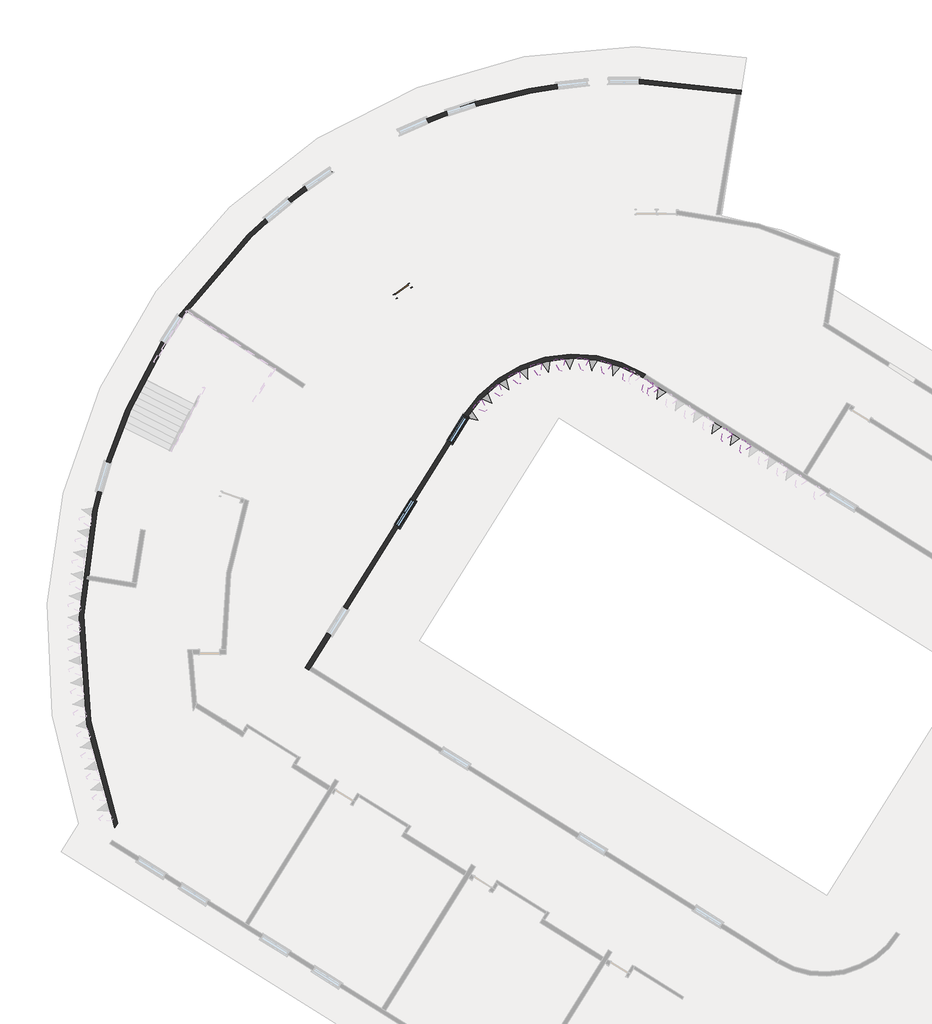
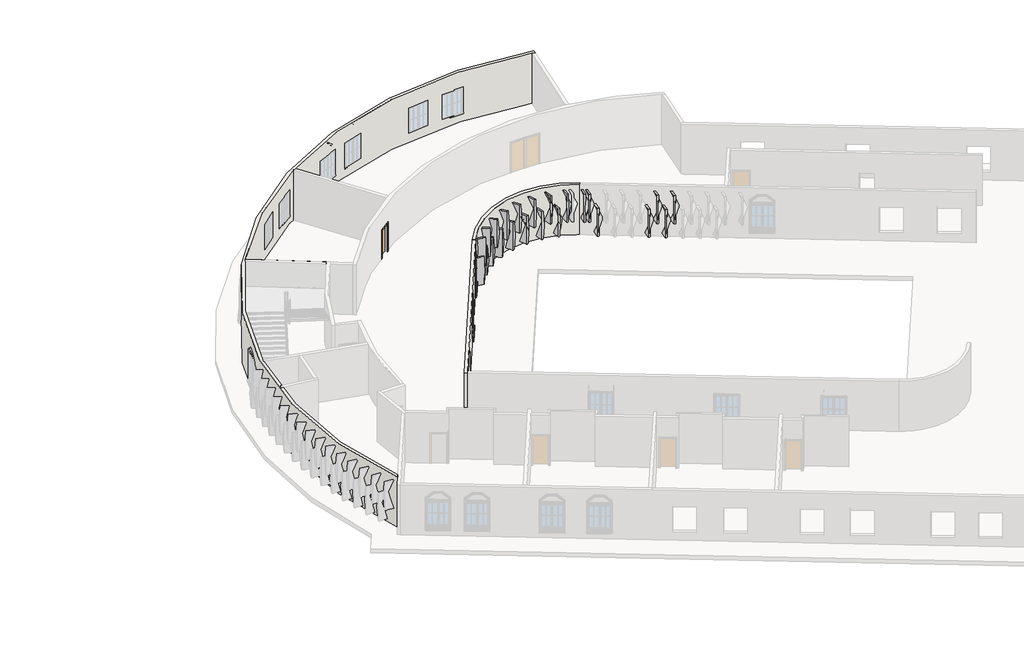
# One storey, part 4 of 7: 23 plates, 4 walls, 2 windows, 1 door.
"""IFC4 building model written with IfcOpenShell, lengths in millimetres."""

from ifc_helpers import new_model, si_unit, point, frame, frame_2d, origin, place, context, project, spatial, polyline, circle_curve, trimmed, segment, composite_curve, outline, extrude, faceted_brep, transform, mapped, element, save
from ifc_brep_helpers import plane_surface, cylinder_surface, revolved_surface, spline_curve, spline_surface, advanced_brep
from components import m_single_flush_0762_x_2032mm_0c256fab, plate_91021fb5, plate_53e44fb4, m_window_casement_double_1400_x_1800mm_877d247a, m_window_casement_double_1400_x_1800mm_eb8f2d9a

model = new_model("IFC4")

# Units and contexts
model_context = context("Model", 3, world=origin())
ifc_project = project(units=[si_unit("LENGTHUNIT", "METRE", prefix="MILLI")], contexts=[model_context])

# Site, building, storey
site = spatial("IfcSite", under=ifc_project)
building = spatial("IfcBuilding", under=site)
storey = spatial("IfcBuildingStorey", under=building, Name="\u200fطبقه اول", Elevation=3600.0)

# Door
placement = place(None, origin())
m_single_flush_0762_x_2032mm_shape = m_single_flush_0762_x_2032mm_0c256fab(model_context)
element("IfcDoor", 1, ObjectType="M_Single-Flush : 0762 x 2032mm", at=placement, inside=storey, context=model_context, shape_type="MappedRepresentation", body=[
    mapped(m_single_flush_0762_x_2032mm_shape, transform((17924.0859242, -18691.1581813, 3600.0), x_axis=(0.8144693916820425, 0.580206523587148, 0.0), y_axis=(-0.580206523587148, 0.8144693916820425, 0.0), z_axis=(0.0, 0.0, 1.0))),
])

# Plates
element("IfcPlate", 2, ObjectType="مدل پارامتریک کصینوس دار : مدل پارامتریک کصینوس دار", at=placement, inside=storey, context=model_context, shape_type="AdvancedBrep", body=[
    advanced_brep(
    [(21394.0327772, -24623.0954482, 3850.0), (21419.0725843, -24505.7369886, 3850.0), (21419.0725843, -24505.7369886, 5850.0), (21394.0327772, -24623.0954482, 5850.0), (20890.3572678, -24392.92936, 3850.0), (20890.3572678, -24392.92936, 5850.0), (20865.3174607, -24510.2878197, 3850.0), (20865.3174607, -24510.2878197, 5850.0)],
    [
        (0, 1),
        (1, 2, spline_curve(3, [(21419.0725843, -24505.7369886, 3850.0), (21419.072209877, -24505.736730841, 3851.333546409), (21419.071836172, -24505.736473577, 3852.666932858), (21419.266970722, -24505.87080726, 4200.371354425), (21495.1983814, -24558.1431793, 4525.185677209), (21495.1983814, -24558.1431793, 5174.814322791), (21419.266970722, -24505.87080726, 5499.628645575), (21419.071836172, -24505.736473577, 5847.333067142), (21419.072209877, -24505.736730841, 5848.666453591), (21419.0725843, -24505.7369886, 5850.0)], [4, 2, 2, 2, 4], [0.0, 0.0019169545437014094, 0.4999999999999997, 0.9980830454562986, 1.0])),
        (2, 3),
        (3, 0, spline_curve(3, [(21394.0327772, -24623.0954482, 5850.0), (21394.032774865, -24623.095446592, 5848.666453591), (21394.032772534, -24623.095444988, 5847.333067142), (21394.03398965, -24623.096282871, 5499.628645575), (21394.5076014, -24623.4223246, 5174.814322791), (21394.5076014, -24623.4223246, 4525.185677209), (21394.03398965, -24623.096282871, 4200.371354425), (21394.032772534, -24623.095444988, 3852.666932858), (21394.032774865, -24623.095446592, 3851.333546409), (21394.0327772, -24623.0954482, 3850.0)], [4, 2, 2, 2, 4], [0.0, 0.0019169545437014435, 0.5000000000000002, 0.9980830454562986, 1.0])),
        (1, 4),
        (4, 5, spline_curve(3, [(20890.3572678, -24392.92936, 3850.0), (20890.355739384, -24392.930778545, 3851.333546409), (20890.354213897, -24392.93219437, 3852.666932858), (20891.150764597, -24392.192904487, 4200.371354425), (21201.1072349, -24104.5179546, 4525.185677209), (21201.1072349, -24104.5179546, 5174.814322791), (20891.150764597, -24392.192904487, 5499.628645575), (20890.354213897, -24392.93219437, 5847.333067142), (20890.355739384, -24392.930778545, 5848.666453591), (20890.3572678, -24392.92936, 5850.0)], [4, 2, 2, 2, 4], [0.0, 0.0019169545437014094, 0.4999999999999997, 0.9980830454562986, 1.0])),
        (5, 2),
        (4, 6),
        (6, 7, spline_curve(3, [(20865.3174607, -24510.2878197, 3850.0), (20865.316304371, -24510.289494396, 3851.333546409), (20865.315150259, -24510.291165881, 3852.666932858), (20865.917783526, -24509.418380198, 4200.371354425), (21100.4164548, -24169.7970999, 4525.185677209), (21100.4164548, -24169.7970999, 5174.814322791), (20865.917783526, -24509.418380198, 5499.628645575), (20865.315150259, -24510.291165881, 5847.333067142), (20865.316304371, -24510.289494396, 5848.666453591), (20865.3174607, -24510.2878197, 5850.0)], [4, 2, 2, 2, 4], [0.0, 0.0019169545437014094, 0.4999999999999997, 0.9980830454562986, 1.0])),
        (7, 5),
        (3, 7),
        (6, 0),
    ],
    [
        spline_surface(3, 3, [[(21394.0327772, -24623.0954482, 3850.0), (21394.032774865, -24623.095446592, 3851.333546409), (21394.032772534, -24623.095444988, 3852.666932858), (21394.033989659, -24623.096282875, 4200.371354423), (21394.5076014, -24623.4223246, 4525.185677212), (21394.5076014, -24623.4223246, 5174.814322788), (21394.033989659, -24623.096282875, 5499.628645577), (21394.032772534, -24623.095444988, 5847.333067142), (21394.032774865, -24623.095446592, 5848.666453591), (21394.0327772, -24623.0954482, 5850.0)], [(21402.379379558, -24583.975961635, 3850.0), (21402.379253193, -24583.975874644, 3851.333546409), (21402.379127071, -24583.975787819, 3852.666932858), (21402.44498334, -24584.021124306, 4200.371354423), (21428.071194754, -24601.662609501, 4525.185677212), (21428.071194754, -24601.662609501, 5174.814322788), (21402.44498334, -24584.021124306, 5499.628645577), (21402.379127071, -24583.975787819, 5847.333067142), (21402.379253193, -24583.975874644, 5848.666453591), (21402.379379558, -24583.975961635, 5850.0)], [(21410.725981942, -24544.856475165, 3850.0), (21410.725731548, -24544.85630279, 3851.333546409), (21410.725481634, -24544.856130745, 3852.666932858), (21410.855977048, -24544.945965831, 4200.371354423), (21461.634788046, -24579.902894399, 4525.185677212), (21461.634788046, -24579.902894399, 5174.814322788), (21410.855977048, -24544.945965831, 5499.628645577), (21410.725481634, -24544.856130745, 5847.333067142), (21410.725731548, -24544.85630279, 5848.666453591), (21410.725981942, -24544.856475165, 5850.0)], [(21419.0725843, -24505.7369886, 3850.0), (21419.072209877, -24505.736730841, 3851.333546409), (21419.071836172, -24505.736473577, 3852.666932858), (21419.26697073, -24505.870807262, 4200.371354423), (21495.1983814, -24558.1431793, 4525.185677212), (21495.1983814, -24558.1431793, 5174.814322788), (21419.26697073, -24505.870807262, 5499.628645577), (21419.071836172, -24505.736473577, 5847.333067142), (21419.072209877, -24505.736730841, 5848.666453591), (21419.0725843, -24505.7369886, 5850.0)]], [4, 4], [4, 2, 2, 2, 4], [0.0, 1.0], [0.0, 0.0019169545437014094, 0.4999999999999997, 0.9980830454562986, 1.0]),
        spline_surface(3, 3, [[(21419.0725843, -24505.7369886, 3850.0), (21419.072209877, -24505.736730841, 3851.333546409), (21419.071836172, -24505.736473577, 3852.666932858), (21419.26697073, -24505.870807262, 4200.371354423), (21495.1983814, -24558.1431793, 4525.185677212), (21495.1983814, -24558.1431793, 5174.814322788), (21419.26697073, -24505.870807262, 5499.628645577), (21419.071836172, -24505.736473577, 5847.333067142), (21419.072209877, -24505.736730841, 5848.666453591), (21419.0725843, -24505.7369886, 5850.0)], [(21242.834145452, -24468.134445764, 3850.0), (21242.833386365, -24468.134746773, 3851.333546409), (21242.832628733, -24468.135047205, 3852.666932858), (21243.22823534, -24467.978173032, 4200.371354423), (21397.167999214, -24406.934771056, 4525.185677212), (21397.167999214, -24406.934771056, 5174.814322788), (21243.22823534, -24467.978173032, 5499.628645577), (21242.832628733, -24468.135047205, 5847.333067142), (21242.833386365, -24468.134746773, 5848.666453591), (21242.834145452, -24468.134445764, 5850.0)], [(21066.595706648, -24430.531902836, 3850.0), (21066.594562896, -24430.532762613, 3851.333546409), (21066.593421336, -24430.533620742, 3852.666932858), (21067.189499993, -24430.085538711, 4200.371354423), (21299.137617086, -24255.726362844, 4525.185677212), (21299.137617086, -24255.726362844, 5174.814322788), (21067.189499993, -24430.085538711, 5499.628645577), (21066.593421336, -24430.533620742, 5847.333067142), (21066.594562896, -24430.532762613, 5848.666453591), (21066.595706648, -24430.531902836, 5850.0)], [(20890.3572678, -24392.92936, 3850.0), (20890.355739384, -24392.930778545, 3851.333546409), (20890.354213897, -24392.93219437, 3852.666932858), (20891.150764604, -24392.192904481, 4200.371354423), (21201.1072349, -24104.5179546, 4525.185677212), (21201.1072349, -24104.5179546, 5174.814322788), (20891.150764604, -24392.192904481, 5499.628645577), (20890.354213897, -24392.93219437, 5847.333067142), (20890.355739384, -24392.930778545, 5848.666453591), (20890.3572678, -24392.92936, 5850.0)]], [4, 4], [4, 2, 2, 2, 4], [0.0, 1.0], [0.0, 0.0019169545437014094, 0.4999999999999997, 0.9980830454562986, 1.0]),
        spline_surface(3, 3, [[(20890.3572678, -24392.92936, 3850.0), (20890.355739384, -24392.930778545, 3851.333546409), (20890.354213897, -24392.93219437, 3852.666932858), (20891.150764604, -24392.192904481, 4200.371354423), (21201.1072349, -24104.5179546, 4525.185677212), (21201.1072349, -24104.5179546, 5174.814322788), (20891.150764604, -24392.192904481, 5499.628645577), (20890.354213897, -24392.93219437, 5847.333067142), (20890.355739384, -24392.930778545, 5848.666453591), (20890.3572678, -24392.92936, 5850.0)], [(20882.010665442, -24432.048846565, 3850.0), (20882.009261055, -24432.050350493, 3851.333546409), (20882.00785936, -24432.051851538, 3852.666932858), (20882.739770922, -24431.26806305, 4200.371354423), (21167.543641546, -24126.277669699, 4525.185677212), (21167.543641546, -24126.277669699, 5174.814322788), (20882.739770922, -24431.26806305, 5499.628645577), (20882.00785936, -24432.051851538, 5847.333067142), (20882.009261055, -24432.050350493, 5848.666453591), (20882.010665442, -24432.048846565, 5850.0)], [(20873.664063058, -24471.168333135, 3850.0), (20873.6627827, -24471.169922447, 3851.333546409), (20873.661504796, -24471.171508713, 3852.666932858), (20874.328777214, -24470.343221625, 4200.371354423), (21133.980048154, -24148.037384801, 4525.185677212), (21133.980048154, -24148.037384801, 5174.814322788), (20874.328777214, -24470.343221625, 5499.628645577), (20873.661504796, -24471.171508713, 5847.333067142), (20873.6627827, -24471.169922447, 5848.666453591), (20873.664063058, -24471.168333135, 5850.0)], [(20865.3174607, -24510.2878197, 3850.0), (20865.316304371, -24510.289494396, 3851.333546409), (20865.315150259, -24510.291165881, 3852.666932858), (20865.917783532, -24509.418380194, 4200.371354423), (21100.4164548, -24169.7970999, 4525.185677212), (21100.4164548, -24169.7970999, 5174.814322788), (20865.917783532, -24509.418380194, 5499.628645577), (20865.315150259, -24510.291165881, 5847.333067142), (20865.316304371, -24510.289494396, 5848.666453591), (20865.3174607, -24510.2878197, 5850.0)]], [4, 4], [4, 2, 2, 2, 4], [0.0, 1.0], [0.0, 0.0019169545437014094, 0.4999999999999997, 0.9980830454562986, 1.0]),
        spline_surface(3, 3, [[(20865.3174607, -24510.2878197, 3850.0), (20865.316304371, -24510.289494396, 3851.333546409), (20865.315150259, -24510.291165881, 3852.666932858), (20865.917783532, -24509.418380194, 4200.371354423), (21100.4164548, -24169.7970999, 4525.185677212), (21100.4164548, -24169.7970999, 5174.814322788), (20865.917783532, -24509.418380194, 5499.628645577), (20865.315150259, -24510.291165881, 5847.333067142), (20865.316304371, -24510.289494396, 5848.666453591), (20865.3174607, -24510.2878197, 5850.0)], [(21041.555899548, -24547.890362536, 3850.0), (21041.555127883, -24547.891478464, 3851.333546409), (21041.554357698, -24547.892592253, 3852.666932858), (21041.956518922, -24547.311014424, 4200.371354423), (21198.446836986, -24321.005508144, 4525.185677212), (21198.446836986, -24321.005508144, 5174.814322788), (21041.956518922, -24547.311014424, 5499.628645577), (21041.554357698, -24547.892592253, 5847.333067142), (21041.555127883, -24547.891478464, 5848.666453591), (21041.555899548, -24547.890362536, 5850.0)], [(21217.794338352, -24585.492905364, 3850.0), (21217.793951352, -24585.493462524, 3851.333546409), (21217.793565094, -24585.494018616, 3852.666932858), (21217.995254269, -24585.203648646, 4200.371354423), (21296.477219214, -24472.213916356, 4525.185677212), (21296.477219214, -24472.213916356, 5174.814322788), (21217.995254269, -24585.203648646, 5499.628645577), (21217.793565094, -24585.494018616, 5847.333067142), (21217.793951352, -24585.493462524, 5848.666453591), (21217.794338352, -24585.492905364, 5850.0)], [(21394.0327772, -24623.0954482, 3850.0), (21394.032774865, -24623.095446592, 3851.333546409), (21394.032772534, -24623.095444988, 3852.666932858), (21394.033989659, -24623.096282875, 4200.371354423), (21394.5076014, -24623.4223246, 4525.185677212), (21394.5076014, -24623.4223246, 5174.814322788), (21394.033989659, -24623.096282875, 5499.628645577), (21394.032772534, -24623.095444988, 5847.333067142), (21394.032774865, -24623.095446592, 5848.666453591), (21394.0327772, -24623.0954482, 5850.0)]], [4, 4], [4, 2, 2, 2, 4], [0.0, 1.0], [0.0, 0.0019169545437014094, 0.4999999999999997, 0.9980830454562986, 1.0]),
        plane_surface(frame((21142.1950225, -24508.0124041, 5850.0), z_axis=(0.0, 0.0, 1.0000000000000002), x_axis=(0.2086650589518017, 0.9779871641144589, 0.0))),
        plane_surface(frame((21142.1950225, -24508.0124041, 3850.0), z_axis=(0.0, 0.0, -1.0000000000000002), x_axis=(-0.9779871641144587, 0.2086650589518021, 0.0))),
    ],
    [
        (0, [[1, 2, 3, 4]]),
        (1, [[-2, 5, 6, 7]]),
        (2, [[-6, 8, 9, 10]]),
        (3, [[-4, 11, -9, 12]]),
        (4, [[-3, -7, -10, -11]]),
        (5, [[-1, -12, -8, -5]]),
    ],
),
])
plate_shape = plate_91021fb5(model_context)
element("IfcPlate", 3, ObjectType="مدل پارامتریک کصینوس دار : مدل پارامتریک کصینوس دار", at=placement, inside=storey, context=model_context, shape_type="MappedRepresentation", body=[
    mapped(plate_shape, transform((27473.6956186, -22338.0075931, 1850.0), x_axis=(0.0, 0.0, 1.0), y_axis=(0.848048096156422, -0.5299192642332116, 0.0), z_axis=(0.5299192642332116, 0.848048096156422, 0.0))),
])
element("IfcPlate", 4, ObjectType="مدل پارامتریک کصینوس دار : مدل پارامتریک کصینوس دار", at=placement, inside=storey, context=model_context, shape_type="MappedRepresentation", body=[
    mapped(plate_shape, transform((27897.7196667, -22602.9672252, 850.0), x_axis=(0.0, 0.0, 1.0), y_axis=(0.848048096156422, -0.5299192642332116, 0.0), z_axis=(0.5299192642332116, 0.848048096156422, 0.0))),
])
element("IfcPlate", 5, ObjectType="مدل پارامتریک کصینوس دار : مدل پارامتریک کصینوس دار", at=placement, inside=storey, context=model_context, shape_type="MappedRepresentation", body=[
    mapped(plate_shape, transform((30441.8639551, -24192.7250179, 850.0), x_axis=(0.0, 0.0, 1.0), y_axis=(0.848048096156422, -0.5299192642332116, 0.0), z_axis=(0.5299192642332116, 0.848048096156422, 0.0))),
])
element("IfcPlate", 6, ObjectType="مدل پارامتریک کصینوس دار : مدل پارامتریک کصینوس دار", at=placement, inside=storey, context=model_context, shape_type="MappedRepresentation", body=[
    mapped(plate_shape, transform((30865.8880032, -24457.68465, 1850.0), x_axis=(0.0, 0.0, 1.0), y_axis=(0.8480480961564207, -0.5299192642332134, 0.0), z_axis=(0.5299192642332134, 0.8480480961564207, 0.0))),
])
element("IfcPlate", 7, ObjectType="مدل پارامتریک کصینوس دار : مدل پارامتریک کصینوس دار", at=placement, inside=storey, context=model_context, shape_type="MappedRepresentation", body=[
    mapped(plate_shape, transform((31289.9120513, -24722.6442821, 850.0), x_axis=(0.0, 0.0, 1.0), y_axis=(0.8480480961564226, -0.5299192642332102, 0.0), z_axis=(0.5299192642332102, 0.8480480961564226, 0.0))),
])
element("IfcPlate", 8, ObjectType="مدل پارامتریک کصینوس دار : مدل پارامتریک کصینوس دار", at=placement, inside=storey, context=model_context, shape_type="MappedRepresentation", body=[
    mapped(plate_shape, transform((31713.9360994, -24987.6039143, 1850.0), x_axis=(0.0, 0.0, 1.0), y_axis=(0.8480480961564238, -0.5299192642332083, 0.0), z_axis=(0.5299192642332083, 0.8480480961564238, 0.0))),
])
plate_2_shape = plate_53e44fb4(model_context)
element("IfcPlate", 9, ObjectType="مدل پارامتریک کصینوس دار : مدل پارامتریک کصینوس دار", at=placement, inside=storey, context=model_context, shape_type="MappedRepresentation", body=[
    mapped(plate_2_shape, transform((20423.4526491, -25768.3939256, 1850.0), x_axis=(0.0, 0.0, 1.0), y_axis=(0.6407959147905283, 0.7677112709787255, 0.0), z_axis=(-0.7677112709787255, 0.6407959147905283, 0.0))),
])
element("IfcPlate", 10, ObjectType="مدل پارامتریک کصینوس دار : مدل پارامتریک کصینوس دار", at=placement, inside=storey, context=model_context, shape_type="MappedRepresentation", body=[
    mapped(plate_2_shape, transform((20624.0315557, -25275.4526207, 850.0), x_axis=(0.0, 0.0, 1.0), y_axis=(0.7090571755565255, 0.7051509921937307, 0.0), z_axis=(-0.7051509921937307, 0.7090571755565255, 0.0))),
])
element("IfcPlate", 11, ObjectType="مدل پارامتریک کصینوس دار : مدل پارامتریک کصینوس دار", at=placement, inside=storey, context=model_context, shape_type="MappedRepresentation", body=[
    mapped(plate_2_shape, transform((20869.344415, -24803.1766116, 1850.0), x_axis=(0.0, 0.0, 1.0), y_axis=(0.7712394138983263, 0.6365451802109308, 0.0), z_axis=(-0.6365451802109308, 0.7712394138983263, 0.0))),
])
element("IfcPlate", 12, ObjectType="مدل پارامتریک کصینوس دار : مدل پارامتریک کصینوس دار", at=placement, inside=storey, context=model_context, shape_type="MappedRepresentation", body=[
    mapped(plate_2_shape, transform((21157.2880646, -24355.6149036, 850.0), x_axis=(0.0, 0.0, 1.0), y_axis=(0.8268095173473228, 0.5624820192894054, 0.0), z_axis=(-0.5624820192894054, 0.8268095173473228, 0.0))),
])
element("IfcPlate", 13, ObjectType="مدل پارامتریک کصینوس دار : مدل پارامتریک کصینوس دار", at=placement, inside=storey, context=model_context, shape_type="MappedRepresentation", body=[
    mapped(plate_2_shape, transform((21485.3938517, -23936.6046171, 1850.0), x_axis=(0.0, 0.0, 1.0), y_axis=(0.8752910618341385, 0.48359648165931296, 0.0), z_axis=(-0.48359648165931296, 0.8752910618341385, 0.0))),
])
element("IfcPlate", 14, ObjectType="مدل پارامتریک کصینوس دار : مدل پارامتریک کصینوس دار", at=placement, inside=storey, context=model_context, shape_type="MappedRepresentation", body=[
    mapped(plate_2_shape, transform((21850.8487982, -23549.7380899, 850.0), x_axis=(0.0, 0.0, 1.0), y_axis=(0.9162683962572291, 0.40056488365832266, 0.0), z_axis=(-0.40056488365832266, 0.9162683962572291, 0.0))),
])
element("IfcPlate", 15, ObjectType="مدل پارامتریک کصینوس دار : مدل پارامتریک کصینوس دار", at=placement, inside=storey, context=model_context, shape_type="MappedRepresentation", body=[
    mapped(plate_2_shape, transform((22250.5197169, -23198.332079, 1850.0), x_axis=(0.0, 0.0, 1.0), y_axis=(0.9493902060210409, 0.31409908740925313, 0.0), z_axis=(-0.31409908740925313, 0.9493902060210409, 0.0))),
])
element("IfcPlate", 16, ObjectType="مدل پارامتریک کصینوس دار : مدل پارامتریک کصینوس دار", at=placement, inside=storey, context=model_context, shape_type="MappedRepresentation", body=[
    mapped(plate_2_shape, transform((22680.9800739, -22885.3993244, 850.0), x_axis=(0.0, 0.0, 1.0), y_axis=(0.9743725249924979, 0.2249403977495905, 0.0), z_axis=(-0.2249403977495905, 0.9743725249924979, 0.0))),
])
element("IfcPlate", 17, ObjectType="مدل پارامتریک کصینوس دار : مدل پارامتریک کصینوس دار", at=placement, inside=storey, context=model_context, shape_type="MappedRepresentation", body=[
    mapped(plate_2_shape, transform((23138.5393653, -22613.6227202, 1850.0), x_axis=(0.0, 0.0, 1.0), y_axis=(0.9910011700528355, 0.13385320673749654, 0.0), z_axis=(-0.13385320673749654, 0.9910011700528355, 0.0))),
])
element("IfcPlate", 18, ObjectType="مدل پارامتریک کصینوس دار : مدل پارامتریک کصینوس دار", at=placement, inside=storey, context=model_context, shape_type="MappedRepresentation", body=[
    mapped(plate_2_shape, transform((23619.2747578, -22385.3323128, 850.0), x_axis=(0.0, 0.0, 1.0), y_axis=(0.9991335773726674, 0.04161844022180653, 0.0), z_axis=(-0.04161844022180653, 0.9991335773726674, 0.0))),
])
element("IfcPlate", 19, ObjectType="مدل پارامتریک کصینوس دار : مدل پارامتریک کصینوس دار", at=placement, inside=storey, context=model_context, shape_type="MappedRepresentation", body=[
    mapped(plate_2_shape, transform((24119.0647203, -22202.4853243, 1850.0), x_axis=(0.0, 0.0, 1.0), y_axis=(0.9987000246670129, -0.05097313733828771, 0.0), z_axis=(0.05097313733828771, 0.9987000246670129, 0.0))),
])
element("IfcPlate", 20, ObjectType="مدل پارامتریک کصینوس دار : مدل پارامتریک کصینوس دار", at=placement, inside=storey, context=model_context, shape_type="MappedRepresentation", body=[
    mapped(plate_2_shape, transform((24633.6243593, -22066.649373, 850.0), x_axis=(0.0, 0.0, 1.0), y_axis=(0.9897042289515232, -0.14312770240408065, 0.0), z_axis=(0.14312770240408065, 0.9897042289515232, 0.0))),
])
element("IfcPlate", 21, ObjectType="مدل پارامتریک کصینوس دار : مدل پارامتریک کصینوس دار", at=placement, inside=storey, context=model_context, shape_type="MappedRepresentation", body=[
    mapped(plate_2_shape, transform((25158.5421554, -21978.9890333, 1850.0), x_axis=(0.0, 0.0, 1.0), y_axis=(0.9722233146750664, -0.2340551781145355, 0.0), z_axis=(0.2340551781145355, 0.9722233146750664, 0.0))),
])
element("IfcPlate", 22, ObjectType="مدل پارامتریک کصینوس دار : مدل پارامتریک کصینوس دار", at=placement, inside=storey, context=model_context, shape_type="MappedRepresentation", body=[
    mapped(plate_2_shape, transform((25689.3177844, -21940.2558512, 850.0), x_axis=(0.0, 0.0, 1.0), y_axis=(0.9464071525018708, -0.32297600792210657, 0.0), z_axis=(0.32297600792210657, 0.9464071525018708, 0.0))),
])
element("IfcPlate", 23, ObjectType="مدل پارامتریک کصینوس دار : مدل پارامتریک کصینوس دار", at=placement, inside=storey, context=model_context, shape_type="MappedRepresentation", body=[
    mapped(plate_2_shape, transform((26221.4007009, -21950.7819014, 1850.0), x_axis=(0.0, 0.0, 1.0), y_axis=(0.9124770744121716, -0.40912783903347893, 0.0), z_axis=(0.40912783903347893, 0.9124770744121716, 0.0))),
])
element("IfcPlate", 24, ObjectType="مدل پارامتریک کصینوس دار : مدل پارامتریک کصینوس دار", at=placement, inside=storey, context=model_context, shape_type="MappedRepresentation", body=[
    mapped(plate_2_shape, transform((27271.2692845, -22118.8291782, 1850.0), x_axis=(0.0, 0.0, 1.0), y_axis=(0.821505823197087, -0.5702001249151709, 0.0), z_axis=(0.5702001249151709, 0.821505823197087, 0.0))),
])

# Walls
element("IfcWall", 25, ObjectType="Generic - 200mm", at=placement, inside=storey, context=model_context, shape_type="AdvancedBrep", body=[
    advanced_brep(
    [(4833.0156697, -43121.3147404, 7200.0), (3818.4498051, -29105.3777655, 7200.0), (3860.998434, -28909.8570334, 7200.0), (8007.1162807, -19649.1909014, 7200.0), (8124.69366, -19487.1238855, 7200.0), (33263.2219556, -9627.4828404, 7200.0), (33459.5130174, -9666.378055, 7200.0), (33492.5116112, -9469.0032283, 7200.0), (4699.4334687, -43335.0909491, 7200.0), (4833.0156697, -43121.3147404, 3600.0), (4699.4334687, -43335.0909491, 3600.0), (33492.5116112, -9469.0032283, 3600.0), (33459.5130175, -9666.378055, 3600.0), (33263.2219556, -9627.4828404, 3600.0), (8124.69366, -19487.1238855, 3600.0), (8007.1162807, -19649.1909014, 3600.0), (3860.998434, -28909.8570334, 3600.0), (3818.4498051, -29105.3777655, 3600.0), (27403.092335, -9188.4245851, 6000.0), (28802.949203, -9168.4058697, 6000.0), (28802.949203, -9168.4058697, 4200.0), (27403.092335, -9188.4245851, 4200.0), (26422.9341497, -9248.8460049, 6000.0), (26422.9341497, -9248.8460049, 4200.0), (25031.2173163, -9400.912621, 4200.0), (25031.2173163, -9400.912621, 6000.0), (19990.273139, -10633.2441312, 6000.0), (21321.3327638, -10199.3313803, 6000.0), (21321.3327638, -10199.3313803, 4200.0), (19990.273139, -10633.2441312, 4200.0), (17817.6703365, -11525.093395, 6000.0), (19102.5546812, -10969.1507533, 6000.0), (19102.5546812, -10969.1507533, 4200.0), (17817.6703365, -11525.093395, 4200.0), (13544.9912576, -14056.3522608, 6000.0), (14695.8980144, -13259.2238915, 6000.0), (14695.8980144, -13259.2238915, 4200.0), (13544.9912576, -14056.3522608, 4200.0), (11729.9960516, -15523.6301613, 6000.0), (12802.2197429, -14623.4433164, 6000.0), (12802.2197429, -14623.4433164, 4200.0), (11729.9960516, -15523.6301613, 4200.0), (4098.1748863, -27933.025919, 6000.0), (4493.0312318, -26589.8623152, 6000.0), (4493.0312318, -26589.8623152, 4200.0), (4098.1748863, -27933.025919, 4200.0), (7029.6837379, -21113.0563563, 6000.0), (7798.757144, -19943.2161553, 6000.0), (7798.757144, -19943.2161553, 4200.0), (7029.6837379, -21113.0563563, 4200.0), (27400.2293141, -8988.3685318, 6000.0), (27400.2293141, -8988.3685318, 4200.0), (28800.0882913, -8968.349728, 4200.0), (28800.090402, -8968.349756, 6000.0), (26401.2020275, -9049.9531707, 6000.0), (25009.4851941, -9202.0197868, 6000.0), (25009.4831028, -9202.0200738, 4200.0), (26401.2020275, -9049.9531707, 4200.0), (19928.2598747, -10443.0206405, 6000.0), (19928.2598747, -10443.0206405, 4200.0), (21259.3214877, -10009.1071803, 4200.0), (21259.3235119, -10009.1065816, 6000.0), (17738.2176288, -11341.4690813, 6000.0), (17738.2176288, -11341.4690813, 4200.0), (19023.103887, -10785.5255483, 4200.0), (19023.1058467, -10785.5247637, 6000.0), (13431.0704621, -13891.8752906, 6000.0), (13431.0704621, -13891.8752906, 4200.0), (14581.9789205, -13094.745672, 4200.0), (14581.9806883, -13094.7445184, 6000.0), (11601.3471011, -15370.398086, 6000.0), (11601.3471011, -15370.398086, 4200.0), (12673.5723712, -14470.2098397, 4200.0), (12673.5740247, -14470.2085275, 6000.0), (3906.2203449, -27876.5983071, 6000.0), (3906.2203449, -27876.5983071, 4200.0), (4301.0772297, -26533.4326624, 4200.0), (4301.0778806, -26533.4306544, 6000.0), (6862.4985942, -21003.1484444, 6000.0), (6862.4985942, -21003.1484444, 4200.0), (7631.5731109, -19833.3064482, 4200.0), (7631.5743187, -19833.3047169, 6000.0)],
    [
        (0, 1, circle_curve(frame((28463.2186017, -34366.1157481, 7200.0), z_axis=(0.0, 0.0, -1.0), x_axis=(1.0, 0.0, 0.0)), 25200.0)),
        (1, 2, circle_curve(frame((28463.2186017, -34366.1157481, 7200.0), z_axis=(0.0, 0.0, -1.0), x_axis=(1.0, 0.0, 0.0)), 25199.9998642)),
        (2, 3, circle_curve(frame((28463.2186017, -34366.1157481, 7200.0), z_axis=(0.0, 0.0, -1.0), x_axis=(1.0, 0.0, 0.0)), 25199.9999274)),
        (3, 4, circle_curve(frame((28463.2186017, -34366.1157481, 7200.0), z_axis=(0.0, 0.0, -1.0), x_axis=(1.0, 0.0, 0.0)), 25199.9999823)),
        (4, 5, circle_curve(frame((28463.2186017, -34366.1157481, 7200.0), z_axis=(0.0, 0.0, -1.0), x_axis=(1.0, 0.0, 0.0)), 25199.9999137)),
        (5, 6, circle_curve(frame((28463.2186017, -34366.1157481, 7200.0), z_axis=(0.0, 0.0, -1.0), x_axis=(1.0, 0.0, 0.0)), 25199.9998083)),
        (6, 7),
        (7, 8, circle_curve(frame((28463.2186017, -34366.1157481, 7200.0), z_axis=(0.0, 0.0, 1.0), x_axis=(1.0, 0.0, 0.0)), 25400.0)),
        (8, 0),
        (9, 10),
        (10, 11, circle_curve(frame((28463.2186017, -34366.1157481, 3600.0), z_axis=(0.0, 0.0, -1.0), x_axis=(1.0, 0.0, 0.0)), 25400.0)),
        (11, 12),
        (12, 13, circle_curve(frame((28463.2186017, -34366.1157481, 3600.0), z_axis=(0.0, 0.0, 1.0), x_axis=(1.0, 0.0, 0.0)), 25200.0)),
        (13, 14, circle_curve(frame((28463.2186017, -34366.1157481, 3600.0), z_axis=(0.0, 0.0, 1.0), x_axis=(1.0, 0.0, 0.0)), 25199.9998083)),
        (14, 15, circle_curve(frame((28463.2186017, -34366.1157481, 3600.0), z_axis=(0.0, 0.0, 1.0), x_axis=(1.0, 0.0, 0.0)), 25199.9999137)),
        (15, 16, circle_curve(frame((28463.2186017, -34366.1157481, 3600.0), z_axis=(0.0, 0.0, 1.0), x_axis=(1.0, 0.0, 0.0)), 25199.9999823)),
        (16, 17, circle_curve(frame((28463.2186017, -34366.1157481, 3600.0), z_axis=(0.0, 0.0, 1.0), x_axis=(1.0, 0.0, 0.0)), 25199.9999274)),
        (17, 9, circle_curve(frame((28463.2186017, -34366.1157481, 3600.0), z_axis=(0.0, 0.0, 1.0), x_axis=(1.0, 0.0, 0.0)), 25199.9998642)),
        (0, 9),
        (12, 6),
        (18, 19, circle_curve(frame((28463.2186017, -34366.1157481, 6000.0), z_axis=(0.0, 0.0, -1.0), x_axis=(1.0, 0.0, 0.0)), 25200.0)),
        (19, 20),
        (20, 21, circle_curve(frame((28463.2186017, -34366.1157481, 4200.0), z_axis=(0.0, 0.0, 1.0), x_axis=(1.0, 0.0, 0.0)), 25200.0)),
        (21, 18),
        (22, 23),
        (23, 24, circle_curve(frame((28463.2186017, -34366.1157481, 4200.0), z_axis=(0.0, 0.0, 1.0), x_axis=(1.0, 0.0, 0.0)), 25200.0)),
        (24, 25),
        (25, 22, circle_curve(frame((28463.2186017, -34366.1157481, 6000.0), z_axis=(0.0, 0.0, -1.0), x_axis=(1.0, 0.0, 0.0)), 25200.0)),
        (26, 27, circle_curve(frame((28463.2186017, -34366.1157481, 6000.0), z_axis=(0.0, 0.0, -1.0), x_axis=(1.0, 0.0, 0.0)), 25200.0)),
        (27, 28),
        (28, 29, circle_curve(frame((28463.2186017, -34366.1157481, 4200.0), z_axis=(0.0, 0.0, 1.0), x_axis=(1.0, 0.0, 0.0)), 25200.0)),
        (29, 26),
        (30, 31, circle_curve(frame((28463.2186017, -34366.1157481, 6000.0), z_axis=(0.0, 0.0, -1.0), x_axis=(1.0, 0.0, 0.0)), 25200.0)),
        (31, 32),
        (32, 33, circle_curve(frame((28463.2186017, -34366.1157481, 4200.0), z_axis=(0.0, 0.0, 1.0), x_axis=(1.0, 0.0, 0.0)), 25200.0)),
        (33, 30),
        (34, 35, circle_curve(frame((28463.2186017, -34366.1157481, 6000.0), z_axis=(0.0, 0.0, -1.0), x_axis=(1.0, 0.0, 0.0)), 25200.0)),
        (35, 36),
        (36, 37, circle_curve(frame((28463.2186017, -34366.1157481, 4200.0), z_axis=(0.0, 0.0, 1.0), x_axis=(1.0, 0.0, 0.0)), 25200.0)),
        (37, 34),
        (38, 39, circle_curve(frame((28463.2186017, -34366.1157481, 6000.0), z_axis=(0.0, 0.0, -1.0), x_axis=(1.0, 0.0, 0.0)), 25200.0)),
        (39, 40),
        (40, 41, circle_curve(frame((28463.2186017, -34366.1157481, 4200.0), z_axis=(0.0, 0.0, 1.0), x_axis=(1.0, 0.0, 0.0)), 25200.0)),
        (41, 38),
        (42, 43, circle_curve(frame((28463.2186017, -34366.1157481, 6000.0), z_axis=(0.0, 0.0, -1.0), x_axis=(1.0, 0.0, 0.0)), 25200.0)),
        (43, 44),
        (44, 45, circle_curve(frame((28463.2186017, -34366.1157481, 4200.0), z_axis=(0.0, 0.0, 1.0), x_axis=(1.0, 0.0, 0.0)), 25200.0)),
        (45, 42),
        (46, 47, circle_curve(frame((28463.2186017, -34366.1157481, 6000.0), z_axis=(0.0, 0.0, -1.0), x_axis=(1.0, 0.0, 0.0)), 25200.0)),
        (47, 48),
        (48, 49, circle_curve(frame((28463.2186017, -34366.1157481, 4200.0), z_axis=(0.0, 0.0, 1.0), x_axis=(1.0, 0.0, 0.0)), 25200.0)),
        (49, 46),
        (7, 11),
        (10, 8),
        (50, 51),
        (51, 52, circle_curve(frame((28463.2186017, -34366.1157481, 4200.0), z_axis=(0.0, 0.0, -1.0), x_axis=(1.0, 0.0, 0.0)), 25400.0)),
        (52, 53),
        (53, 50, circle_curve(frame((28463.2186017, -34366.1157481, 6000.0), z_axis=(0.0, 0.0, 1.0), x_axis=(1.0, 0.0, 0.0)), 25400.0)),
        (54, 55, circle_curve(frame((28463.2186017, -34366.1157481, 6000.0), z_axis=(0.0, 0.0, 1.0), x_axis=(1.0, 0.0, 0.0)), 25400.0)),
        (55, 56),
        (56, 57, circle_curve(frame((28463.2186017, -34366.1157481, 4200.0), z_axis=(0.0, 0.0, -1.0), x_axis=(1.0, 0.0, 0.0)), 25400.0)),
        (57, 54),
        (58, 59),
        (59, 60, circle_curve(frame((28463.2186017, -34366.1157481, 4200.0), z_axis=(0.0, 0.0, -1.0), x_axis=(1.0, 0.0, 0.0)), 25400.0)),
        (60, 61),
        (61, 58, circle_curve(frame((28463.2186017, -34366.1157481, 6000.0), z_axis=(0.0, 0.0, 1.0), x_axis=(1.0, 0.0, 0.0)), 25400.0)),
        (62, 63),
        (63, 64, circle_curve(frame((28463.2186017, -34366.1157481, 4200.0), z_axis=(0.0, 0.0, -1.0), x_axis=(1.0, 0.0, 0.0)), 25400.0)),
        (64, 65),
        (65, 62, circle_curve(frame((28463.2186017, -34366.1157481, 6000.0), z_axis=(0.0, 0.0, 1.0), x_axis=(1.0, 0.0, 0.0)), 25400.0)),
        (66, 67),
        (67, 68, circle_curve(frame((28463.2186017, -34366.1157481, 4200.0), z_axis=(0.0, 0.0, -1.0), x_axis=(1.0, 0.0, 0.0)), 25400.0)),
        (68, 69),
        (69, 66, circle_curve(frame((28463.2186017, -34366.1157481, 6000.0), z_axis=(0.0, 0.0, 1.0), x_axis=(1.0, 0.0, 0.0)), 25400.0)),
        (70, 71),
        (71, 72, circle_curve(frame((28463.2186017, -34366.1157481, 4200.0), z_axis=(0.0, 0.0, -1.0), x_axis=(1.0, 0.0, 0.0)), 25400.0)),
        (72, 73),
        (73, 70, circle_curve(frame((28463.2186017, -34366.1157481, 6000.0), z_axis=(0.0, 0.0, 1.0), x_axis=(1.0, 0.0, 0.0)), 25400.0)),
        (74, 75),
        (75, 76, circle_curve(frame((28463.2186017, -34366.1157481, 4200.0), z_axis=(0.0, 0.0, -1.0), x_axis=(1.0, 0.0, 0.0)), 25400.0)),
        (76, 77),
        (77, 74, circle_curve(frame((28463.2186017, -34366.1157481, 6000.0), z_axis=(0.0, 0.0, 1.0), x_axis=(1.0, 0.0, 0.0)), 25400.0)),
        (78, 79),
        (79, 80, circle_curve(frame((28463.2186017, -34366.1157481, 4200.0), z_axis=(0.0, 0.0, -1.0), x_axis=(1.0, 0.0, 0.0)), 25400.0)),
        (80, 81),
        (81, 78, circle_curve(frame((28463.2186017, -34366.1157481, 6000.0), z_axis=(0.0, 0.0, 1.0), x_axis=(1.0, 0.0, 0.0)), 25400.0)),
        (50, 18),
        (21, 51),
        (20, 52),
        (19, 53),
        (22, 54),
        (57, 23),
        (56, 24),
        (55, 25),
        (58, 26),
        (29, 59),
        (28, 60),
        (27, 61),
        (62, 30),
        (33, 63),
        (32, 64),
        (31, 65),
        (66, 34),
        (37, 67),
        (36, 68),
        (35, 69),
        (70, 38),
        (41, 71),
        (40, 72),
        (39, 73),
        (74, 42),
        (45, 75),
        (44, 76),
        (43, 77),
        (78, 46),
        (49, 79),
        (48, 80),
        (47, 81),
    ],
    [
        plane_surface(frame((53663.2186017, -34366.1157481, 7200.0), z_axis=(0.0, 0.0, 1.0), x_axis=(0.0, -1.0, 0.0))),
        plane_surface(frame((53663.2186017, -34366.1157481, 3600.0), z_axis=(0.0, 0.0, -1.0), x_axis=(0.0, 1.0, 0.0))),
        revolved_surface(polyline([(53663.2186017, -34366.1157481, 3600.0), (53663.2186017, -34366.1157481, 7200.0)]), (28463.2186017, -34366.1157481, 3600.0), (0.0, 0.0, -1.0)),
        cylinder_surface(frame((28463.2186017, -34366.1157481, 3600.0), z_axis=(0.0, 0.0, 1.0), x_axis=(1.0, 0.0, 0.0)), 25400.0),
        plane_surface(frame((4413.835552, -43792.1431566, 3600.0), z_axis=(0.8480480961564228, -0.5299192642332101, 0.0), x_axis=(-0.5299192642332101, -0.8480480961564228, 0.0))),
        plane_surface(frame((33460.501445, -9660.4659632, 3600.0), z_axis=(0.9863105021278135, -0.16489873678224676, 0.0), x_axis=(0.16489873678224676, 0.9863105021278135, 0.0))),
        plane_surface(frame((27400.2293141, -8988.3685318, 6000.0), z_axis=(0.9998976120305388, 0.014309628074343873, 0.0), x_axis=(0.014309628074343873, -0.9998976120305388, 0.0))),
        plane_surface(frame((27400.2314232, -8988.3684435, 4200.0), z_axis=(0.0, 0.0, 1.0), x_axis=(0.014299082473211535, -0.9998977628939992, 0.0))),
        plane_surface(frame((28800.090402, -8968.349756, 4200.0), z_axis=(-0.9998979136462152, -0.014288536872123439, 0.0), x_axis=(0.014288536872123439, -0.9998979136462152, 0.0))),
        plane_surface(frame((28800.0882913, -8968.349728, 6000.0), z_axis=(0.0, 0.0, -1.0000000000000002), x_axis=(0.014299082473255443, -0.9998977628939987, 0.0))),
        plane_surface(frame((26422.9341497, -9248.8460049, 6000.0), z_axis=(-0.994084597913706, -0.1086085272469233, 0.0), x_axis=(-0.1086085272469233, 0.994084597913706, 0.0))),
        plane_surface(frame((26422.9341497, -9248.8460049, 4200.0), z_axis=(0.0, 0.0, 1.0), x_axis=(-0.10861901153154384, 0.9940834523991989, 0.0))),
        plane_surface(frame((25031.2173163, -9400.912621, 4200.0), z_axis=(0.9940823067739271, 0.10862949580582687, 0.0), x_axis=(-0.10862949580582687, 0.9940823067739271, 0.0))),
        plane_surface(frame((25031.2173163, -9400.912621, 6000.0), z_axis=(0.0, 0.0, -1.0), x_axis=(-0.10861901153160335, 0.9940834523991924, 0.0))),
        plane_surface(frame((19928.2598747, -10443.0206405, 6000.0), z_axis=(0.9507536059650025, 0.30994770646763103, 0.0), x_axis=(0.30994770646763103, -0.9507536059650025, 0.0))),
        plane_surface(frame((19928.2618629, -10443.0199312, 4200.0), z_axis=(0.0, 0.0, 1.0000000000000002), x_axis=(0.30993767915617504, -0.9507568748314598, 0.0))),
        plane_surface(frame((21259.3235119, -10009.1065816, 4200.0), z_axis=(-0.9507601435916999, -0.3099276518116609, 0.0), x_axis=(0.3099276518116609, -0.9507601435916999, 0.0))),
        plane_surface(frame((21259.3214877, -10009.1071803, 6000.0), z_axis=(0.0, 0.0, -1.0), x_axis=(0.3099376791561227, -0.9507568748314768, 0.0))),
        plane_surface(frame((17738.2176288, -11341.4690813, 6000.0), z_axis=(0.9177703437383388, 0.39711156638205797, 0.0), x_axis=(0.39711156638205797, -0.9177703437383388, 0.0))),
        plane_surface(frame((17738.2195423, -11341.46819, 4200.0), z_axis=(0.0, 0.0, 1.0), x_axis=(0.3971018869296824, -0.9177745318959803, 0.0))),
        plane_surface(frame((19023.1058467, -10785.5247637, 4200.0), z_axis=(-0.9177787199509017, -0.39709220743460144, 0.0), x_axis=(0.39709220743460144, -0.9177787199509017, 0.0))),
        plane_surface(frame((19023.103887, -10785.5255483, 6000.0), z_axis=(0.0, 0.0, -1.0000000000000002), x_axis=(0.39710188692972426, -0.9177745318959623, 0.0))),
        plane_surface(frame((13431.0704621, -13891.8752906, 6000.0), z_axis=(0.8220702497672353, 0.5693860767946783, 0.0), x_axis=(0.5693860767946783, -0.8220702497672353, 0.0))),
        plane_surface(frame((13431.0721637, -13891.8740414, 4200.0), z_axis=(0.0, 0.0, 1.0), x_axis=(0.5693774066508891, -0.8220762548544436, 0.0))),
        plane_surface(frame((14581.9806883, -13094.7445184, 4200.0), z_axis=(-0.8220822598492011, -0.5693687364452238, 0.0), x_axis=(0.5693687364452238, -0.8220822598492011, 0.0))),
        plane_surface(frame((14581.9789205, -13094.745672, 6000.0), z_axis=(0.0, 0.0, -1.0000000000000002), x_axis=(0.569377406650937, -0.8220762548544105, 0.0))),
        plane_surface(frame((11601.3471011, -15370.398086, 6000.0), z_axis=(0.7658672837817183, 0.6429986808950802, 0.0), x_axis=(0.6429986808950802, -0.7658672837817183, 0.0))),
        plane_surface(frame((11601.3486798, -15370.3966846, 4200.0), z_axis=(0.0, 0.0, 1.0000000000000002), x_axis=(0.6429906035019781, -0.7658740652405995, 0.0))),
        plane_surface(frame((12673.5740247, -14470.2085275, 4200.0), z_axis=(-0.7658808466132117, -0.6429825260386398, 0.0), x_axis=(0.6429825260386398, -0.7658808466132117, 0.0))),
        plane_surface(frame((12673.5723712, -14470.2098397, 6000.0), z_axis=(0.0, 0.0, -1.0000000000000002), x_axis=(0.6429906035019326, -0.7658740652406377, 0.0))),
        plane_surface(frame((3906.2203449, -27876.5983071, 6000.0), z_axis=(0.2820301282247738, 0.9594055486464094, 0.0), x_axis=(0.9594055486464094, -0.2820301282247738, 0.0))),
        plane_surface(frame((3906.2208842, -27876.5962662, 4200.0), z_axis=(0.0, 0.0, 1.0000000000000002), x_axis=(0.9594025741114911, -0.28204024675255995, 0.0))),
        plane_surface(frame((4301.0778806, -26533.4306544, 4200.0), z_axis=(-0.2820503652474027, -0.959399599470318, 0.0), x_axis=(0.959399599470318, -0.2820503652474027, 0.0))),
        plane_surface(frame((4301.0772297, -26533.4326624, 6000.0), z_axis=(0.0, 0.0, -1.0), x_axis=(0.9594025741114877, -0.2820402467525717, 0.0))),
        plane_surface(frame((6862.4985942, -21003.1484444, 6000.0), z_axis=(0.5493293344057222, 0.8356059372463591, 0.0), x_axis=(0.8356059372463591, -0.5493293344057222, 0.0))),
        plane_surface(frame((6862.4997048, -21003.1466492, 4200.0), z_axis=(0.0, 0.0, 1.0), x_axis=(0.8356001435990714, -0.5493381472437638, 0.0))),
        plane_surface(frame((7631.5743187, -19833.3047169, 4200.0), z_axis=(-0.5493469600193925, -0.8355943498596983, 0.0), x_axis=(0.8355943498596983, -0.5493469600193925, 0.0))),
        plane_surface(frame((7631.5731109, -19833.3064482, 6000.0), z_axis=(0.0, 0.0, -1.0), x_axis=(0.8356001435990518, -0.5493381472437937, 0.0))),
    ],
    [
        (0, [[1, 2, 3, 4, 5, 6, 7, 8, 9]]),
        (1, [[10, 11, 12, 13, 14, 15, 16, 17, 18]]),
        (2, [[-6, -5, -4, -3, -2, -1, 19, -18, -17, -16, -15, -14, -13, 20], [21, 22, 23, 24], [25, 26, 27, 28], [29, 30, 31, 32], [33, 34, 35, 36], [37, 38, 39, 40], [41, 42, 43, 44], [45, 46, 47, 48], [49, 50, 51, 52]]),
        (3, [[-8, 53, -11, 54], [55, 56, 57, 58], [59, 60, 61, 62], [63, 64, 65, 66], [67, 68, 69, 70], [71, 72, 73, 74], [75, 76, 77, 78], [79, 80, 81, 82], [83, 84, 85, 86]]),
        (4, [[-9, -54, -10, -19]]),
        (5, [[-7, -20, -12, -53]]),
        (6, [[-55, 87, -24, 88]]),
        (7, [[-56, -88, -23, 89]]),
        (8, [[-57, -89, -22, 90]]),
        (9, [[-58, -90, -21, -87]]),
        (10, [[-25, 91, -62, 92]]),
        (11, [[-26, -92, -61, 93]]),
        (12, [[-27, -93, -60, 94]]),
        (13, [[-28, -94, -59, -91]]),
        (14, [[-63, 95, -32, 96]]),
        (15, [[-64, -96, -31, 97]]),
        (16, [[-65, -97, -30, 98]]),
        (17, [[-66, -98, -29, -95]]),
        (18, [[-67, 99, -36, 100]]),
        (19, [[-68, -100, -35, 101]]),
        (20, [[-69, -101, -34, 102]]),
        (21, [[-70, -102, -33, -99]]),
        (22, [[-71, 103, -40, 104]]),
        (23, [[-72, -104, -39, 105]]),
        (24, [[-73, -105, -38, 106]]),
        (25, [[-74, -106, -37, -103]]),
        (26, [[-75, 107, -44, 108]]),
        (27, [[-76, -108, -43, 109]]),
        (28, [[-77, -109, -42, 110]]),
        (29, [[-78, -110, -41, -107]]),
        (30, [[-79, 111, -48, 112]]),
        (31, [[-80, -112, -47, 113]]),
        (32, [[-81, -113, -46, 114]]),
        (33, [[-82, -114, -45, -111]]),
        (34, [[-83, 115, -52, 116]]),
        (35, [[-84, -116, -51, 117]]),
        (36, [[-85, -117, -50, 118]]),
        (37, [[-86, -118, -49, -115]]),
    ],
),
])
element("IfcWall", 26, ObjectType="Generic - 200mm", at=placement, inside=storey, context=model_context, shape_type="SweptSolid", body=[
    extrude(outline(composite_curve([segment(polyline([(12010.6232883, -22268.7232659), (8007.113091, -19649.1953048)]), True, "CONTINUOUS"), segment(trimmed(circle_curve(frame_2d((28463.2186017, -34366.1157481)), 25200.0), [point((8007.113091, -19649.1953048))], [point((8124.6948433, -19487.1221218))], False, "CARTESIAN"), True, "CONTINUOUS"), segment(polyline([(8124.6948433, -19487.1221218), (12127.9583762, -22106.4886885)]), True, "CONTINUOUS"), segment(trimmed(circle_curve(frame_2d((29284.4488792, -34638.3554793)), 21246.0078989), [point((12127.9583762, -22106.4886885))], [point((12010.6232883, -22268.7232659))], True, "CARTESIAN"), True, "CONTINUOUS")], self_intersect=False)), frame((0.0, 0.0, 3600.0), z_axis=(0.0, 0.0, 1.0), x_axis=(1.0, 0.0, 0.0)), (0.0, 0.0, 1.0), 3600.0),
])
element("IfcWall", 27, ObjectType="Generic - 200mm", at=placement, inside=storey, context=model_context, shape_type="Brep", body=[
    faceted_brep([(20668.7110366, -24453.3480844, 3600.0), (13454.3910026, -35998.6735384, 3600.0), (13454.3910026, -35998.6735384, 7200.0), (20668.7110366, -24453.3480844, 7200.0), (20668.7110366, -24453.3480844, 6000.0), (19979.8159931, -25555.8106094, 6000.0), (19979.8159931, -25555.8106094, 4200.0), (20668.7110366, -24453.3480844, 4200.0), (17564.973906, -29420.3657836, 6000.0), (17564.973906, -29420.3657836, 4200.0), (18306.8608759, -28233.0984489, 4200.0), (18306.8608759, -28233.0984489, 6000.0), (14461.2367754, -34387.3834827, 6000.0), (14461.2367754, -34387.3834827, 4200.0), (15203.1237453, -33200.1161481, 4200.0), (15203.1237453, -33200.1161481, 6000.0), (13624.0006218, -36104.6573913, 3600.0), (13729.9844746, -35935.047772, 3600.0), (20838.3206559, -24559.3319372, 3600.0), (20838.3206559, -24559.3319372, 4200.0), (20149.4256124, -25661.7944622, 4200.0), (20149.4256124, -25661.7944622, 6000.0), (20838.3206559, -24559.3319372, 6000.0), (20838.3206559, -24559.3319372, 7200.0), (13729.9844746, -35935.047772, 7200.0), (13624.0006218, -36104.6573913, 7200.0), (17734.5835252, -29526.3496364, 6000.0), (18476.4704952, -28339.0823018, 6000.0), (18476.4704952, -28339.0823018, 4200.0), (17734.5835252, -29526.3496364, 4200.0), (14630.8463946, -34493.3673356, 6000.0), (15372.7333646, -33306.100001, 6000.0), (15372.7333646, -33306.100001, 4200.0), (14630.8463946, -34493.3673356, 4200.0)], [[[0, 1, 2, 3, 4, 5, 6, 7], [8, 9, 10, 11], [12, 13, 14, 15]], [[16, 17, 18, 19, 20, 21, 22, 23, 24, 25], [26, 27, 28, 29], [30, 31, 32, 33]], [[1, 0, 18, 17, 16]], [[3, 2, 25, 24, 23]], [[18, 0, 7, 19]], [[3, 23, 22, 4]], [[2, 1, 16, 25]], [[9, 8, 26, 29]], [[10, 9, 29, 28]], [[11, 10, 28, 27]], [[8, 11, 27, 26]], [[13, 12, 30, 33]], [[14, 13, 33, 32]], [[15, 14, 32, 31]], [[12, 15, 31, 30]], [[6, 20, 19, 7]], [[20, 6, 5, 21]], [[21, 5, 4, 22]]]),
])
element("IfcWall", 28, ObjectType="Generic - 200mm", at=placement, inside=storey, context=model_context, shape_type="AdvancedBrep", body=[
    advanced_brep(
    [(29074.3073067, -22512.7593175, 7200.0), (20668.7064083, -24453.3451923, 7200.0), (20838.3160275, -24559.3290451, 7200.0), (28968.3234538, -22682.3689368, 7200.0), (29074.3073067, -22512.7593175, 3600.0), (28968.3234538, -22682.3689368, 3600.0), (20838.3160275, -24559.3290451, 3600.0), (20668.7064083, -24453.3451923, 3600.0), (20668.7064083, -24453.3451923, 4200.0), (20668.7064083, -24453.3451923, 6000.0), (20838.3160275, -24559.3290451, 4200.0), (20838.3160275, -24559.3290451, 6000.0)],
    [
        (0, 1, circle_curve(frame((25841.7997949, -27685.8527041, 7200.0), z_axis=(0.0, 0.0, 1.0), x_axis=(1.0, 0.0, 0.0)), 6100.0)),
        (1, 2),
        (2, 3, circle_curve(frame((25841.7997949, -27685.8527041, 7200.0), z_axis=(0.0, 0.0, -1.0), x_axis=(1.0, 0.0, 0.0)), 5900.0)),
        (3, 0),
        (4, 5),
        (5, 6, circle_curve(frame((25841.7997949, -27685.8527041, 3600.0), z_axis=(0.0, 0.0, 1.0), x_axis=(1.0, 0.0, 0.0)), 5900.0)),
        (6, 7),
        (7, 4, circle_curve(frame((25841.7997949, -27685.8527041, 3600.0), z_axis=(0.0, 0.0, -1.0), x_axis=(1.0, 0.0, 0.0)), 6100.0)),
        (0, 4),
        (7, 8),
        (8, 9),
        (9, 1),
        (6, 10),
        (10, 11),
        (11, 2),
        (5, 3),
    ],
    [
        plane_surface(frame((31941.7997949, -27685.8527041, 7200.0), z_axis=(0.0, 0.0, 1.0), x_axis=(0.0, 1.0, 0.0))),
        plane_surface(frame((31941.7997949, -27685.8527041, 3600.0), z_axis=(0.0, 0.0, -1.0), x_axis=(0.0, -1.0, 0.0))),
        cylinder_surface(frame((25841.7997949, -27685.8527041, 3600.0), z_axis=(0.0, 0.0, 1.0), x_axis=(1.0, 0.0, 0.0)), 6100.0),
        plane_surface(frame((20668.7064083, -24453.3451923, 7200.0), z_axis=(-0.5299192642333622, -0.8480480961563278, 0.0), x_axis=(0.0, 0.0, -1.0))),
        revolved_surface(polyline([(31741.7997949, -27685.8527041, 3600.0), (31741.7997949, -27685.8527041, 7200.0)]), (25841.7997949, -27685.8527041, 3600.0), (0.0, 0.0, -1.0)),
        plane_surface(frame((28968.3234538, -22682.3689368, 7200.0), z_axis=(0.8480480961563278, -0.5299192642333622, 0.0), x_axis=(0.0, 0.0, -1.0))),
    ],
    [
        (0, [[1, 2, 3, 4]]),
        (1, [[5, 6, 7, 8]]),
        (2, [[-1, 9, -8, 10, 11, 12]]),
        (3, [[-2, -12, -11, -10, -7, 13, 14, 15]]),
        (4, [[-3, -15, -14, -13, -6, 16]]),
        (5, [[-4, -16, -5, -9]]),
    ],
),
])

# Windows
m_window_casement_double_1400_x_1800mm_shape = m_window_casement_double_1400_x_1800mm_877d247a(model_context)
element("IfcWindow", 29, ObjectType="M_Window-Casement-Double : 1400 x 1800mm", at=placement, inside=storey, context=model_context, shape_type="MappedRepresentation", body=[
    mapped(m_window_casement_double_1400_x_1800mm_shape, transform((20435.5642877, -25015.1688685, 3300.0), x_axis=(0.52991926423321, 0.8480480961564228, 0.0), y_axis=(-0.8480480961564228, 0.52991926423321, 0.0), z_axis=(0.0, 0.0, 1.0))),
])
m_window_casement_double_1400_x_1800mm_2_shape = m_window_casement_double_1400_x_1800mm_eb8f2d9a(model_context)
element("IfcWindow", 30, ObjectType="M_Window-Casement-Double : 1400 x 1800mm", at=placement, inside=storey, context=model_context, shape_type="MappedRepresentation", body=[
    mapped(m_window_casement_double_1400_x_1800mm_2_shape, transform((18020.7222006, -28879.7240427, 3300.0), x_axis=(-0.52991926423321, -0.8480480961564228, 0.0), y_axis=(0.8480480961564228, -0.52991926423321, 0.0), z_axis=(0.0, 0.0, 1.0))),
])

save(model, "model.ifc")
